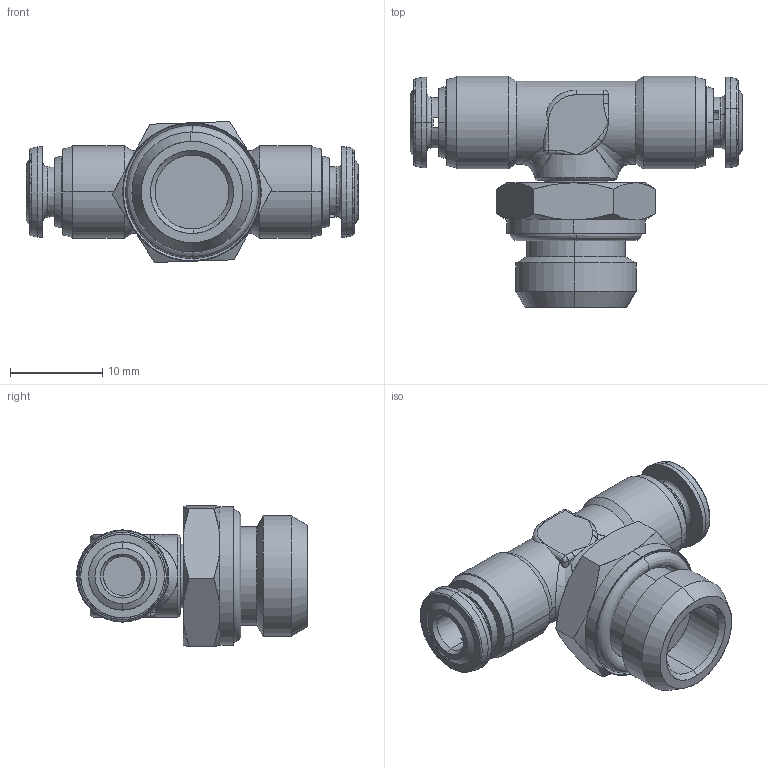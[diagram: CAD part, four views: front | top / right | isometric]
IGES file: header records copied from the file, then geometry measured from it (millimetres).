
Start section: SolidWorks IGES file using analytic representation for surfaces
Global section: file name: K:\Disegni Esecutivi\Serie 60000 inox 316\ASSIEMI_60000\60215\ASSIEMI_PIENI_60215\6021500002.IGS; native system: SolidWorks 2008; preprocessor: SolidWorks 2008; author: cad02; date: 080306.104303; units: millimetre
Bounding box: 36 x 25.05 x 15.28 mm (x, y, z)
Surface area: 2792.4 mm2 (no closed solid volume)
Topology: 0 solids, 0 shells, 200 faces, 2372 edges, 2360 vertices
Faces by surface type: revolution 115, bspline 85
